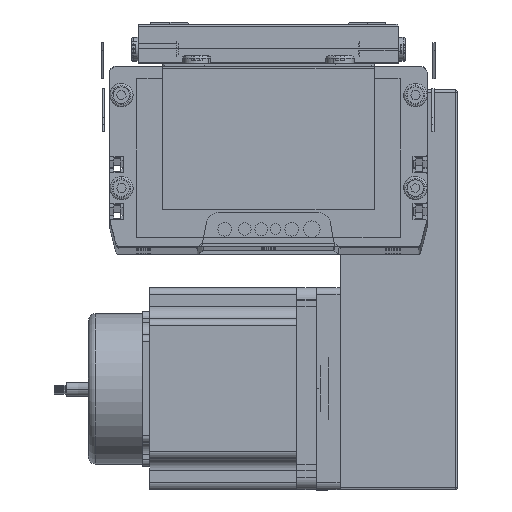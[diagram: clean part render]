
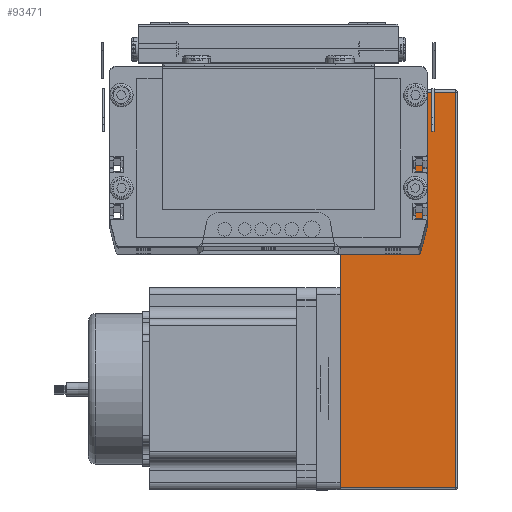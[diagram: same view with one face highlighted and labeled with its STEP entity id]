
A CAD part, top view. The second image highlights one B-rep face of the part: STEP entity #93471.
In plain terms, the highlighted planar face has unit normal (0, 0, 1) as drawn and (0, 1, 0) by its records, which use the part's own axes.
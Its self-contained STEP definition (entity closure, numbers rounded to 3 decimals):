
#6758 = CARTESIAN_POINT ( 'NONE',  ( 1., 70., 50. ) ) ;
#6759 = LINE ( 'NONE', #6758, #7052 ) ;
#7021 = LINE ( 'NONE', #7296, #7563 ) ;
#7052 = VECTOR ( 'NONE', #7271, 1000. ) ;
#7264 = CARTESIAN_POINT ( 'NONE',  ( 80.439, 70., 0. ) ) ;
#7271 = DIRECTION ( 'NONE',  ( 0., 0., 1. ) ) ;
#7296 = CARTESIAN_POINT ( 'NONE',  ( 0., 70., 49. ) ) ;
#7546 = DIRECTION ( 'NONE',  ( 1., 0., 0. ) ) ;
#7563 = VECTOR ( 'NONE', #7546, 1000. ) ;
#7567 = LINE ( 'NONE', #7612, #7607 ) ;
#7569 = DIRECTION ( 'NONE',  ( 1., 0., 0. ) ) ;
#7570 = VECTOR ( 'NONE', #7569, 1000. ) ;
#7571 = CARTESIAN_POINT ( 'NONE',  ( 0., 70., 0. ) ) ;
#7572 = CARTESIAN_POINT ( 'NONE',  ( 74.961, 70., 0. ) ) ;
#7573 = CARTESIAN_POINT ( 'NONE',  ( 5.418, 70., 0. ) ) ;
#7574 = DIRECTION ( 'NONE',  ( 0., 0., -1. ) ) ;
#7575 = DIRECTION ( 'NONE',  ( 0., -1., 0. ) ) ;
#7577 = LINE ( 'NONE', #7571, #7570 ) ;
#7578 = CARTESIAN_POINT ( 'NONE',  ( 0., 70., 50. ) ) ;
#7586 = CARTESIAN_POINT ( 'NONE',  ( 169., 70., 0. ) ) ;
#7587 = AXIS2_PLACEMENT_3D ( 'NONE', #7578, #7575, #7574 ) ;
#7594 = PLANE ( 'NONE',  #7587 ) ;
#7595 = FACE_OUTER_BOUND ( 'NONE', #93467, .T. ) ;
#7596 = LINE ( 'NONE', #7615, #7614 ) ;
#7598 = CARTESIAN_POINT ( 'NONE',  ( 0., 70., 0. ) ) ;
#7599 = CARTESIAN_POINT ( 'NONE',  ( 10.902, 70., 0. ) ) ;
#7604 = LINE ( 'NONE', #7598, #7611 ) ;
#7606 = DIRECTION ( 'NONE',  ( 1., 0., 0. ) ) ;
#7607 = VECTOR ( 'NONE', #7606, 1000. ) ;
#7610 = DIRECTION ( 'NONE',  ( 1., 0., 0. ) ) ;
#7611 = VECTOR ( 'NONE', #7610, 1000. ) ;
#7612 = CARTESIAN_POINT ( 'NONE',  ( 0., 70., 0. ) ) ;
#7613 = DIRECTION ( 'NONE',  ( 1., 0., 0. ) ) ;
#7614 = VECTOR ( 'NONE', #7613, 1000. ) ;
#7615 = CARTESIAN_POINT ( 'NONE',  ( 0., 70., 0. ) ) ;
#7716 = DIRECTION ( 'NONE',  ( 1., 0., 0. ) ) ;
#7717 = VECTOR ( 'NONE', #7716, 1000. ) ;
#7723 = CARTESIAN_POINT ( 'NONE',  ( 0., 70., 0. ) ) ;
#7724 = LINE ( 'NONE', #7723, #7717 ) ;
#7742 = DIRECTION ( 'NONE',  ( -1., 0., 0. ) ) ;
#7743 = VECTOR ( 'NONE', #7742, 1000. ) ;
#7744 = CARTESIAN_POINT ( 'NONE',  ( 0., 70., 0. ) ) ;
#7745 = LINE ( 'NONE', #7744, #7743 ) ;
#7747 = CARTESIAN_POINT ( 'NONE',  ( 85.9, 70., 0. ) ) ;
#7810 = CARTESIAN_POINT ( 'NONE',  ( 1., 70., 49. ) ) ;
#7818 = CARTESIAN_POINT ( 'NONE',  ( 1., 70., 0. ) ) ;
#7844 = CARTESIAN_POINT ( 'NONE',  ( 169., 70., 49. ) ) ;
#8117 = DIRECTION ( 'NONE',  ( 0., 0., -1. ) ) ;
#8118 = VECTOR ( 'NONE', #8117, 1000. ) ;
#8119 = CARTESIAN_POINT ( 'NONE',  ( 169., 70., 50. ) ) ;
#8120 = LINE ( 'NONE', #8119, #8118 ) ;
#62542 = ORIENTED_EDGE ( 'NONE', *, *, #93521, .T. ) ;
#93460 = VERTEX_POINT ( 'NONE', #7264 ) ;
#93465 = ORIENTED_EDGE ( 'NONE', *, *, #93482, .F. ) ;
#93467 = EDGE_LOOP ( 'NONE', ( #62542, #93470, #93478, #93474, #93465, #93496, #93564, #93609, #93612 ) ) ;
#93470 = ORIENTED_EDGE ( 'NONE', *, *, #93472, .F. ) ;
#93471 = ADVANCED_FACE ( 'NONE', ( #7595 ), #7594, .F. ) ;
#93472 = EDGE_CURVE ( 'NONE', #93460, #93523, #7577, .T. ) ;
#93473 = VERTEX_POINT ( 'NONE', #7573 ) ;
#93474 = ORIENTED_EDGE ( 'NONE', *, *, #93479, .F. ) ;
#93475 = VERTEX_POINT ( 'NONE', #7572 ) ;
#93476 = EDGE_CURVE ( 'NONE', #93475, #93460, #7596, .T. ) ;
#93478 = ORIENTED_EDGE ( 'NONE', *, *, #93476, .F. ) ;
#93479 = EDGE_CURVE ( 'NONE', #93483, #93475, #7567, .T. ) ;
#93482 = EDGE_CURVE ( 'NONE', #93473, #93483, #7604, .T. ) ;
#93483 = VERTEX_POINT ( 'NONE', #7599 ) ;
#93484 = VERTEX_POINT ( 'NONE', #7586 ) ;
#93496 = ORIENTED_EDGE ( 'NONE', *, *, #93497, .F. ) ;
#93497 = EDGE_CURVE ( 'NONE', #93560, #93473, #7724, .T. ) ;
#93521 = EDGE_CURVE ( 'NONE', #93484, #93523, #7745, .T. ) ;
#93523 = VERTEX_POINT ( 'NONE', #7747 ) ;
#93560 = VERTEX_POINT ( 'NONE', #7818 ) ;
#93561 = VERTEX_POINT ( 'NONE', #7810 ) ;
#93564 = ORIENTED_EDGE ( 'NONE', *, *, #93566, .T. ) ;
#93565 = EDGE_CURVE ( 'NONE', #93561, #93569, #7021, .T. ) ;
#93566 = EDGE_CURVE ( 'NONE', #93560, #93561, #6759, .T. ) ;
#93569 = VERTEX_POINT ( 'NONE', #7844 ) ;
#93609 = ORIENTED_EDGE ( 'NONE', *, *, #93565, .T. ) ;
#93610 = EDGE_CURVE ( 'NONE', #93569, #93484, #8120, .T. ) ;
#93612 = ORIENTED_EDGE ( 'NONE', *, *, #93610, .T. ) ;
